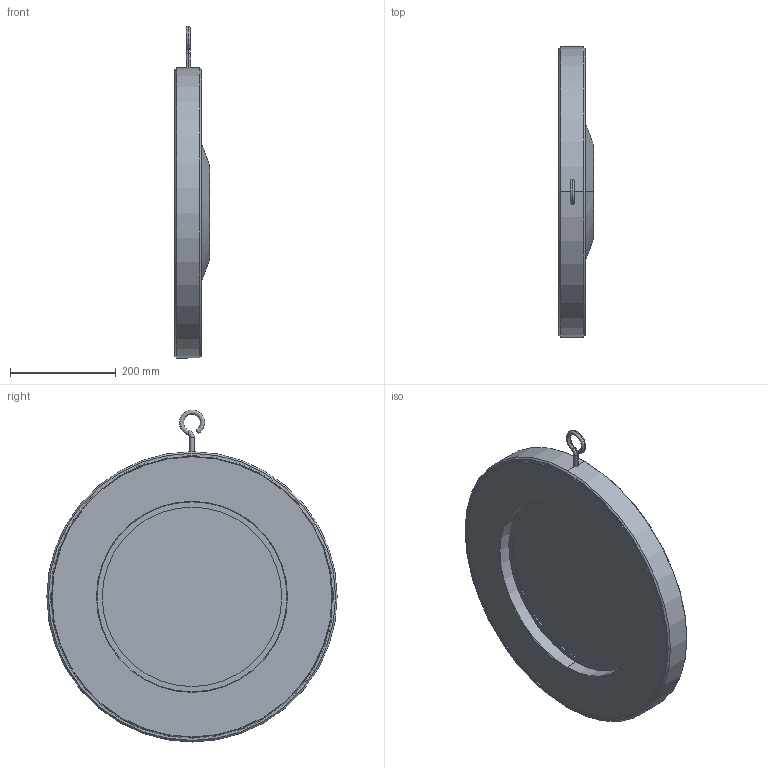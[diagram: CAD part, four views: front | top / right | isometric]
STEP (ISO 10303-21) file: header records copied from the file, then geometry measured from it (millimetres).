
FILE_DESCRIPTION (( 'STEP AP203' ), '1' );
FILE_NAME ('0.STEP', '2017-04-04T01:28:06', ( 'User' ), ( 'shendu' ), 'SwSTEP 2.0', 'SolidWorks 2015', '' );
FILE_SCHEMA (( 'CONFIG_CONTROL_DESIGN' ));
Length unit declared in the file: millimetre
Products named in the file (1): 0
Bounding box: 66.5 x 550 x 629 mm (x, y, z)
Volume: 8715569.7 mm3; surface area: 734525.4 mm2
Topology: 11 solids, 11 shells, 182 faces, 452 edges, 270 vertices
Faces by surface type: plane 71, bspline 41, cylinder 40, cone 30
Entity records: 10885 total; most frequent: CARTESIAN_POINT 6808, ORIENTED_EDGE 850, DIRECTION 798, EDGE_CURVE 425, AXIS2_PLACEMENT_3D 302, VERTEX_POINT 270, EDGE_LOOP 199, LINE 194
